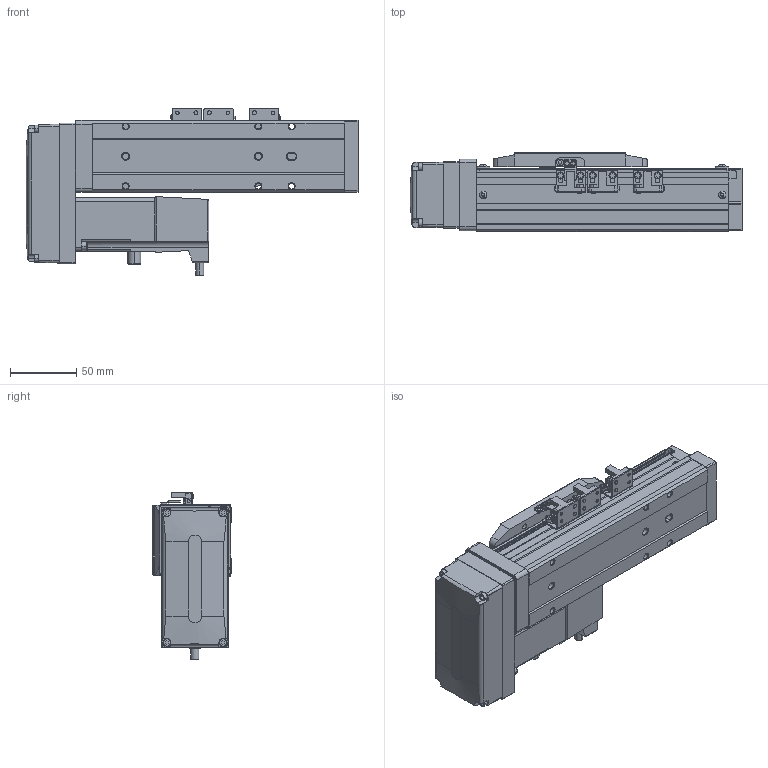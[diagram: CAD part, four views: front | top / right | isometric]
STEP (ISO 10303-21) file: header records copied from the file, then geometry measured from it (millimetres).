
FILE_DESCRIPTION (( 'STEP AP203' ), '1' );
FILE_NAME ('CTH5-L10-S50-BR-C10(¼ò).STEP', '2023-02-04T02:30:45', ( '' ), ( '' ), 'SwSTEP 2.0', 'SolidWorks 2018', '' );
FILE_SCHEMA (( 'CONFIG_CONTROL_DESIGN' ));
Length unit declared in the file: millimetre
Products named in the file (22): 嫖萇羲壽郪磁1; T10-p1; M3｡｣; 内六角圆柱头螺钉M3-2; CTH5綴耜啣; CTH100W假蚾啣; CTH5耜晚蹟隊-1; CTH5耜蚾欶; CTH嫖萇羲壽假蚾啣; 100W萇儂; CTH5菁釱-L190; CTH5耜蚾蟀諉啣(潠); PM-Y45; hex nuts, style 1-grades ab gb_GB_FASTENER_NUT_SNAB1 M3-N; CTH5-L10-S50-BR-C10(潠); CTH5耜晚蹟隊; CTH5-BL-T10_body5; 葩璃 蚾饜极13^CTH8-L10-S50-BM-C40(潠)1; CTH5覜茼え; 葩璃 蚾饜极16^CTH5-L10-S50-BR-C10(潠); CTH5ヶ耜啣(潠); CTH5賑怢
Assembly tree (37 placements, depth 4):
  CTH5-L10-S50-BR-C10(潠)
    CTH5綴耜啣
    CTH5賑怢
    CTH5ヶ耜啣(潠)
    CTH5菁釱-L190
    CTH5耜晚蹟隊  x2
    嫖萇羲壽郪磁1  x2
      CTH嫖萇羲壽假蚾啣
      PM-Y45
      M3｡｣
      内六角圆柱头螺钉M3-2
      hex nuts, style 1-grades ab gb_GB_FASTENER_NUT_SNAB1 M3-N
    CTH5覜茼え
    葩璃 蚾饜极13^CTH8-L10-S50-BM-C40(潠)1
      CTH嫖萇羲壽假蚾啣
      PM-Y45
      内六角圆柱头螺钉M3-2  x2
      M3｡｣  x2
      hex nuts, style 1-grades ab gb_GB_FASTENER_NUT_SNAB1 M3-N  x2
    CTH5耜晚蹟隊-1  x4
    葩璃 蚾饜极16^CTH5-L10-S50-BR-C10(潠)
      CTH5耜蚾蟀諉啣(潠)
      CTH5耜蚾欶
        CTH5-BL-T10_body5
      100W萇儂
        T10-p1
      CTH100W假蚾啣
Bounding box: 250 x 60 x 126.31 mm (x, y, z)
Volume: 834897.5 mm3; surface area: 151874.9 mm2
Topology: 39 solids, 39 shells, 1559 faces, 3897 edges, 2524 vertices
Faces by surface type: plane 890, cylinder 452, cone 159, torus 40, bspline 18
Entity records: 35863 total; most frequent: CARTESIAN_POINT 6636, DIRECTION 5621, ORIENTED_EDGE 5418, EDGE_CURVE 2709, AXIS2_PLACEMENT_3D 1916, VECTOR 1789, LINE 1789, VERTEX_POINT 1752
